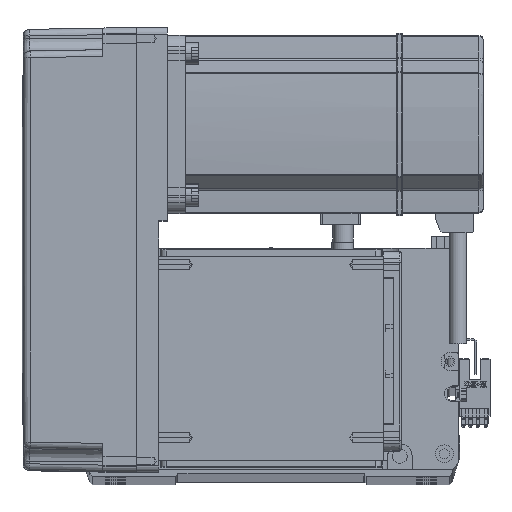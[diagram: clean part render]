
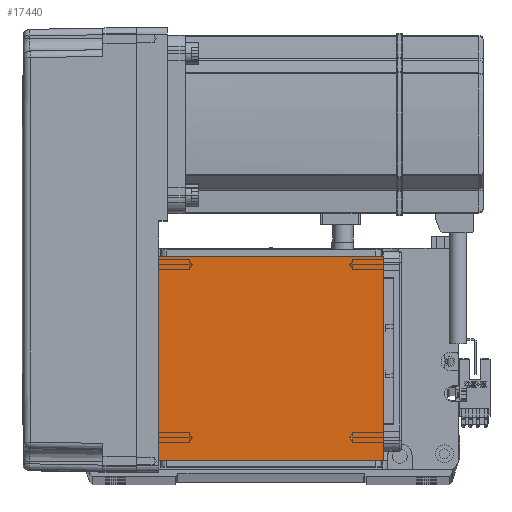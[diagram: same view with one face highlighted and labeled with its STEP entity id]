
A CAD part, top view. The second image highlights one B-rep face of the part: STEP entity #17440.
In plain terms, the highlighted planar face has unit normal (0, 0, 1).
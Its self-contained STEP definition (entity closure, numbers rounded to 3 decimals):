
#506 = CARTESIAN_POINT ( 'NONE',  ( -70.004, 111.5, 115. ) ) ;
#909 = LINE ( 'NONE', #51432, #14513 ) ;
#927 = EDGE_CURVE ( 'NONE', #39659, #46243, #19301, .T. ) ;
#2562 = PLANE ( 'NONE',  #9171 ) ;
#2985 = CARTESIAN_POINT ( 'NONE',  ( 0., 0., 115. ) ) ;
#4886 = CARTESIAN_POINT ( 'NONE',  ( -50.5, 20., 115. ) ) ;
#9171 = AXIS2_PLACEMENT_3D ( 'NONE', #2985, #26670, #22234 ) ;
#11534 = CARTESIAN_POINT ( 'NONE',  ( -50.5, 111.5, 115. ) ) ;
#11706 = ORIENTED_EDGE ( 'NONE', *, *, #62059, .T. ) ;
#14513 = VECTOR ( 'NONE', #46979, 1000. ) ;
#15225 = VERTEX_POINT ( 'NONE', #4886 ) ;
#15406 = ORIENTED_EDGE ( 'NONE', *, *, #43145, .F. ) ;
#17440 = ADVANCED_FACE ( 'NONE', ( #24176 ), #2562, .T. ) ;
#18842 = DIRECTION ( 'NONE',  ( 0., 1., 0. ) ) ;
#19301 = LINE ( 'NONE', #37211, #21521 ) ;
#19512 = VECTOR ( 'NONE', #37906, 1000. ) ;
#20676 = ORIENTED_EDGE ( 'NONE', *, *, #35499, .F. ) ;
#21521 = VECTOR ( 'NONE', #18842, 1000. ) ;
#22234 = DIRECTION ( 'NONE',  ( 1., 0., 0. ) ) ;
#23776 = DIRECTION ( 'NONE',  ( 1., 0., 0. ) ) ;
#24176 = FACE_OUTER_BOUND ( 'NONE', #48751, .T. ) ;
#26670 = DIRECTION ( 'NONE',  ( 0., 0., 1. ) ) ;
#27367 = VERTEX_POINT ( 'NONE', #11534 ) ;
#31491 = ORIENTED_EDGE ( 'NONE', *, *, #927, .T. ) ;
#32382 = VECTOR ( 'NONE', #23776, 1000. ) ;
#35499 = EDGE_CURVE ( 'NONE', #27367, #46243, #47488, .T. ) ;
#37211 = CARTESIAN_POINT ( 'NONE',  ( 50.5, 122., 115. ) ) ;
#37906 = DIRECTION ( 'NONE',  ( 0., -1., 0. ) ) ;
#39659 = VERTEX_POINT ( 'NONE', #60489 ) ;
#43145 = EDGE_CURVE ( 'NONE', #39659, #15225, #909, .T. ) ;
#46243 = VERTEX_POINT ( 'NONE', #59527 ) ;
#46979 = DIRECTION ( 'NONE',  ( -1., 0., 0. ) ) ;
#47488 = LINE ( 'NONE', #506, #32382 ) ;
#48751 = EDGE_LOOP ( 'NONE', ( #20676, #11706, #15406, #31491 ) ) ;
#51432 = CARTESIAN_POINT ( 'NONE',  ( -70.004, 20., 115. ) ) ;
#52780 = CARTESIAN_POINT ( 'NONE',  ( -50.5, 122., 115. ) ) ;
#56617 = LINE ( 'NONE', #52780, #19512 ) ;
#59527 = CARTESIAN_POINT ( 'NONE',  ( 50.5, 111.5, 115. ) ) ;
#60489 = CARTESIAN_POINT ( 'NONE',  ( 50.5, 20., 115. ) ) ;
#62059 = EDGE_CURVE ( 'NONE', #27367, #15225, #56617, .T. ) ;
